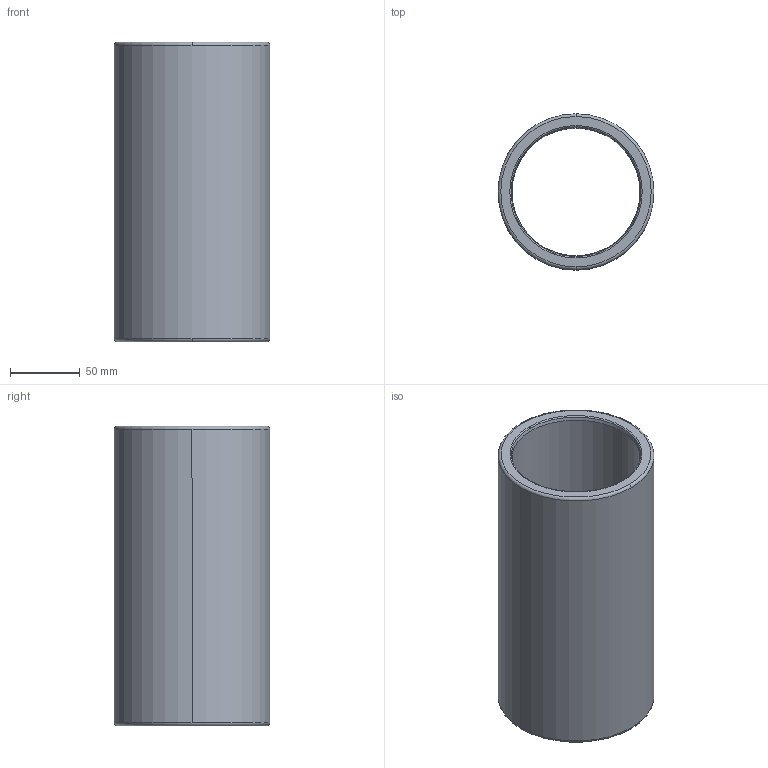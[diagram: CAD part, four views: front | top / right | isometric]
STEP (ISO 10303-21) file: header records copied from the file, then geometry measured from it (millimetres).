
FILE_DESCRIPTION((''),'2;1');
FILE_NAME('B30_080_215.stp','2009-01-12T10:32:22',(''),(''),'Mechanical Desktop 2009','Mechanical Desktop 2009',', , ');
FILE_SCHEMA(('CONFIG_CONTROL_DESIGN'));
Length unit declared in the file: millimetre
Products named in the file (2): Product; blmdl1
Assembly tree (1 placements, depth 2):
  Product
    blmdl1
Bounding box: 111.98 x 111.98 x 215 mm (x, y, z)
Volume: 688146.6 mm3; surface area: 143035.6 mm2
Topology: 1 solids, 1 shells, 18 faces, 48 edges, 32 vertices
Faces by surface type: torus 8, cylinder 4, cone 4, plane 2
Entity records: 705 total; most frequent: DIRECTION 128, CARTESIAN_POINT 100, ORIENTED_EDGE 96, AXIS2_PLACEMENT_3D 60, EDGE_CURVE 48, CIRCLE 40, VERTEX_POINT 32, EDGE_LOOP 20
